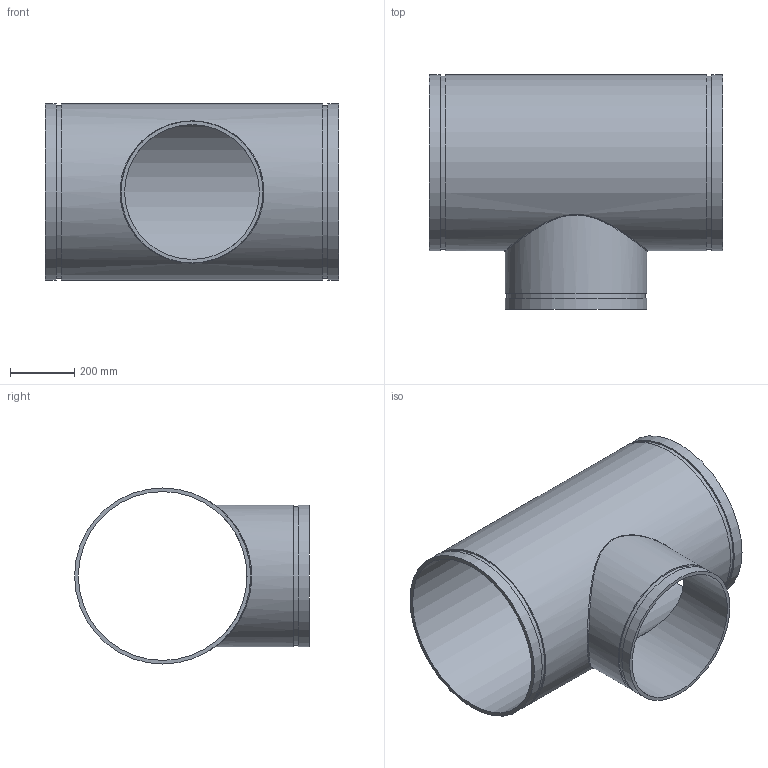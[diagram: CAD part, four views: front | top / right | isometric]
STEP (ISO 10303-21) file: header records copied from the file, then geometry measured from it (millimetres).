
FILE_DESCRIPTION(/* description */ ('VIC REDUCING TEE No 25-C','CAx-IF Rec.Pracs.---Representation and Presentation of Product Manufacturing Information (PMI)---4.0---2014-10-13'),/* implementation_level */ '2;1');
FILE_NAME(/* name */ 'C:\Users\Vjadhav\AppData\Roaming\Autodesk\ApplicationPlugins\Back Up\Victaulic_AWWA_Tee Reducing_No 25-C (DRG)\Victaulic_AWWA_Tee Reducing_No 25-C (DRG)_20.0x16.0 (500x400).stp',/* time_stamp */ '2020-08-18T18:18:46+06:00',/* author */ ('CORINNE GRAY'),/* organization */ ('Victaulic'),/* preprocessor_version */ 'ST-DEVELOPER v17.2',/* originating_system */ 'Autodesk Inventor 2019',/* authorisation */ '');
FILE_SCHEMA (('AP242_MANAGED_MODEL_BASED_3D_ENGINEERING_MIM_LF { 1 0 10303 442 1 1 4 }'));
Length unit declared in the file: inch
Products named in the file (1): 25C-20.0x16.0
Bounding box: 914.4 x 731.52 x 548.64 mm (x, y, z)
Volume: 18969027.3 mm3; surface area: 3505842 mm2
Topology: 1 solids, 1 shells, 20 faces, 44 edges, 33 vertices
Faces by surface type: cylinder 10, plane 9, bspline 1
Full cylindrical faces by diameter (mm): 420.116 x1, 433.4 x1, 441.96 x2, 525.78 x1, 538.963 x2, 548.64 x3
Entity records: 1155 total; most frequent: CARTESIAN_POINT 531, DIRECTION 135, ORIENTED_EDGE 90, AXIS2_PLACEMENT_3D 62, EDGE_CURVE 45, VERTEX_POINT 34, EDGE_LOOP 31, CIRCLE 29
